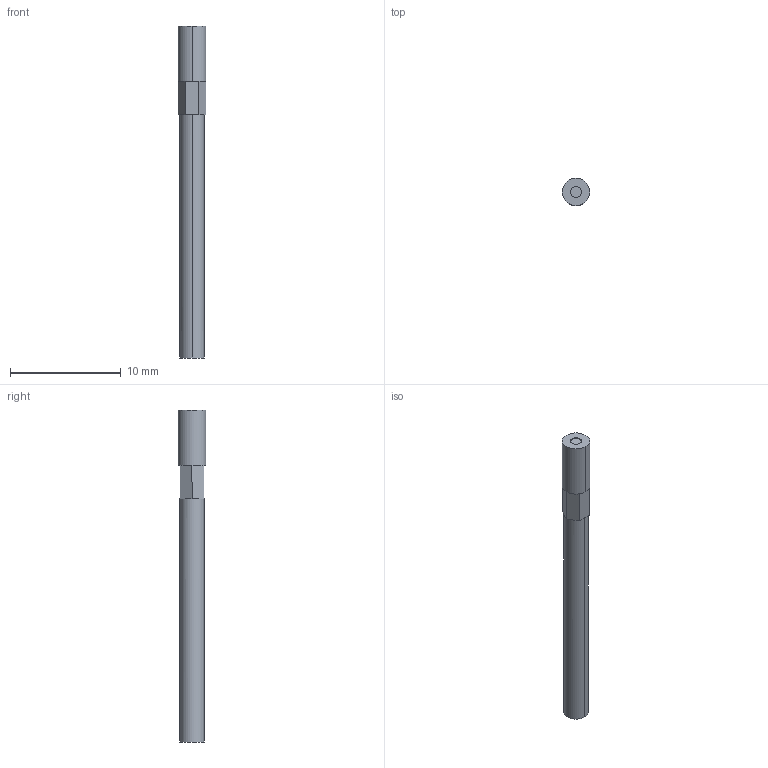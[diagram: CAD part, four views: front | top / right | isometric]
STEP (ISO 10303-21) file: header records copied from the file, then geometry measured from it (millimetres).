
FILE_DESCRIPTION (( 'STEP AP203' ), '1' );
FILE_NAME ('FT-WS8.STEP', '2005-09-08T04:16:00', ( '' ), ( '' ), 'SwSTEP 2.0', 'SolidWorks 2004073', '' );
FILE_SCHEMA (( 'CONFIG_CONTROL_DESIGN' ));
Length unit declared in the file: millimetre
Products named in the file (1): FT-WS8
Bounding box: 2.5 x 2.5 x 30 mm (x, y, z)
Volume: 120.3 mm3; surface area: 224 mm2
Topology: 1 solids, 1 shells, 33 faces, 66 edges, 36 vertices
Faces by surface type: plane 27, cylinder 6
Entity records: 915 total; most frequent: DIRECTION 164, CARTESIAN_POINT 136, ORIENTED_EDGE 132, EDGE_CURVE 66, AXIS2_PLACEMENT_3D 64, LINE 36, VECTOR 36, VERTEX_POINT 36
